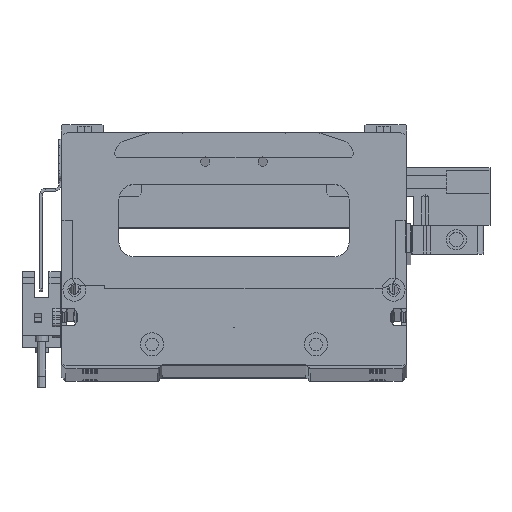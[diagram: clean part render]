
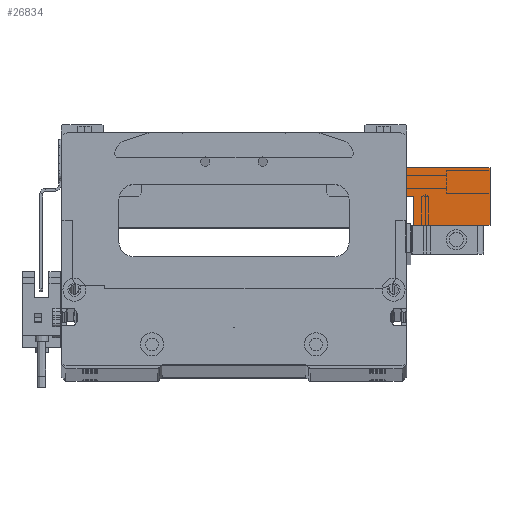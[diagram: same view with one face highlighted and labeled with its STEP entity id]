
A CAD part, top view. The second image highlights one B-rep face of the part: STEP entity #26834.
In plain terms, the highlighted planar face has unit normal (0, 0, 1) as drawn and (-1, 0, 0) by its records, which use the part's own axes.
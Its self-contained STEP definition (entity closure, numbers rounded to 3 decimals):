
#394 = DIRECTION ( 'NONE',  ( 0., -1., 0. ) ) ;
#1230 = EDGE_LOOP ( 'NONE', ( #5661, #2498, #19645, #28589, #27024, #21027 ) ) ;
#2498 = ORIENTED_EDGE ( 'NONE', *, *, #20550, .T. ) ;
#5661 = ORIENTED_EDGE ( 'NONE', *, *, #32096, .F. ) ;
#7721 = VERTEX_POINT ( 'NONE', #24811 ) ;
#8072 = CARTESIAN_POINT ( 'NONE',  ( -130.52, 64.063, 20. ) ) ;
#8139 = VERTEX_POINT ( 'NONE', #25947 ) ;
#8856 = EDGE_CURVE ( 'NONE', #23933, #22284, #22425, .T. ) ;
#8974 = VECTOR ( 'NONE', #15960, 1000. ) ;
#9693 = CARTESIAN_POINT ( 'NONE',  ( -130.52, 35.063, 0. ) ) ;
#10578 = LINE ( 'NONE', #11927, #29747 ) ;
#11927 = CARTESIAN_POINT ( 'NONE',  ( -130.52, 37.563, 10. ) ) ;
#12152 = DIRECTION ( 'NONE',  ( 1., 0., 0. ) ) ;
#12581 = CARTESIAN_POINT ( 'NONE',  ( -130.52, 37.563, 10. ) ) ;
#13080 = FACE_OUTER_BOUND ( 'NONE', #1230, .T. ) ;
#13611 = VECTOR ( 'NONE', #21426, 1000. ) ;
#13949 = VECTOR ( 'NONE', #394, 1000. ) ;
#14250 = CARTESIAN_POINT ( 'NONE',  ( -130.52, 64.063, 20. ) ) ;
#14681 = PLANE ( 'NONE',  #21361 ) ;
#15451 = EDGE_CURVE ( 'NONE', #16656, #23933, #18000, .T. ) ;
#15927 = LINE ( 'NONE', #8072, #13949 ) ;
#15960 = DIRECTION ( 'NONE',  ( 0., 0., -1. ) ) ;
#16656 = VERTEX_POINT ( 'NONE', #28060 ) ;
#16711 = DIRECTION ( 'NONE',  ( 0., -1., 0. ) ) ;
#16994 = DIRECTION ( 'NONE',  ( 0., 0., -1. ) ) ;
#18000 = LINE ( 'NONE', #23504, #8974 ) ;
#19252 = VERTEX_POINT ( 'NONE', #12581 ) ;
#19373 = DIRECTION ( 'NONE',  ( 0., 0., 1. ) ) ;
#19645 = ORIENTED_EDGE ( 'NONE', *, *, #25363, .F. ) ;
#20550 = EDGE_CURVE ( 'NONE', #19252, #8139, #10578, .T. ) ;
#21027 = ORIENTED_EDGE ( 'NONE', *, *, #24400, .F. ) ;
#21086 = CARTESIAN_POINT ( 'NONE',  ( -130.52, 35.063, 20. ) ) ;
#21361 = AXIS2_PLACEMENT_3D ( 'NONE', #14250, #12152, #16994 ) ;
#21426 = DIRECTION ( 'NONE',  ( 0., 0., -1. ) ) ;
#22284 = VERTEX_POINT ( 'NONE', #9693 ) ;
#22386 = VECTOR ( 'NONE', #29382, 1000. ) ;
#22425 = LINE ( 'NONE', #31554, #31787 ) ;
#23504 = CARTESIAN_POINT ( 'NONE',  ( -130.52, 64.063, 20. ) ) ;
#23933 = VERTEX_POINT ( 'NONE', #26244 ) ;
#24400 = EDGE_CURVE ( 'NONE', #7721, #22284, #29267, .T. ) ;
#24811 = CARTESIAN_POINT ( 'NONE',  ( -130.52, 35.063, 10. ) ) ;
#25363 = EDGE_CURVE ( 'NONE', #16656, #8139, #15927, .T. ) ;
#25947 = CARTESIAN_POINT ( 'NONE',  ( -130.52, 37.563, 20. ) ) ;
#26244 = CARTESIAN_POINT ( 'NONE',  ( -130.52, 64.063, 0. ) ) ;
#26834 = ADVANCED_FACE ( 'NONE', ( #13080 ), #14681, .F. ) ;
#27024 = ORIENTED_EDGE ( 'NONE', *, *, #8856, .T. ) ;
#27202 = CARTESIAN_POINT ( 'NONE',  ( -130.52, 35.063, 10. ) ) ;
#28060 = CARTESIAN_POINT ( 'NONE',  ( -130.52, 64.063, 20. ) ) ;
#28589 = ORIENTED_EDGE ( 'NONE', *, *, #15451, .T. ) ;
#29016 = LINE ( 'NONE', #27202, #22386 ) ;
#29267 = LINE ( 'NONE', #21086, #13611 ) ;
#29382 = DIRECTION ( 'NONE',  ( 0., -1., 0. ) ) ;
#29747 = VECTOR ( 'NONE', #19373, 1000. ) ;
#31554 = CARTESIAN_POINT ( 'NONE',  ( -130.52, 64.063, 0. ) ) ;
#31787 = VECTOR ( 'NONE', #16711, 1000. ) ;
#32096 = EDGE_CURVE ( 'NONE', #19252, #7721, #29016, .T. ) ;
